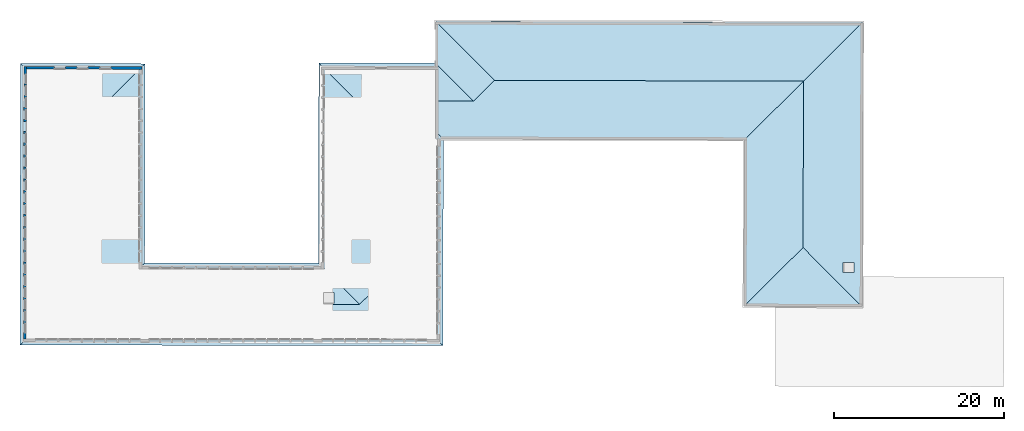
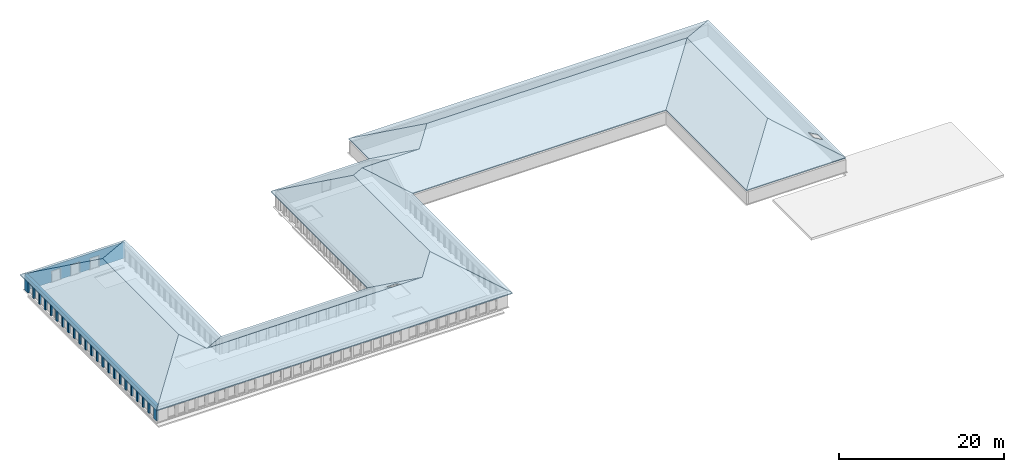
# One storey, part 26 of 26: 2 walls, 1 roof.
"""IFC2X3 building model written with IfcOpenShell, lengths in metres."""

from ifc_helpers import new_model, entity, si_unit, converted_unit, derived_unit, direction, frame, origin, place, context, subcontext, project, spatial, faceted_brep, material, layer, layer_set, type_object, element, save


model = new_model("IFC2X3")

# Units and contexts
model_context = context("Model", 3, precision=1e-05, world=origin(), true_north=direction((6.123233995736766e-17, 1.0)))
body_context = subcontext(model_context, "Body", "Model", "MODEL_VIEW")
ifc_project = project(units=[si_unit("LENGTHUNIT", "METRE"), si_unit("AREAUNIT", "SQUARE_METRE"), converted_unit("PLANEANGLEUNIT", "DEGREE", entity("IfcPlaneAngleMeasure", 0.017453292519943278), si_unit("PLANEANGLEUNIT", "RADIAN"), dimensions=[0, 0, 0, 0, 0, 0, 0]), derived_unit("THERMALTRANSMITTANCEUNIT", [(si_unit("MASSUNIT", "GRAM", prefix="KILO"), 1), (si_unit("THERMODYNAMICTEMPERATUREUNIT", "KELVIN"), -1), (si_unit("TIMEUNIT", "SECOND"), -3)])], contexts=[model_context])

# Site, building, storey
site_placement = place(None, frame((1253.6752467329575, 2072.143113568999, 91.49999999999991), z_axis=(0.0, 0.0, 1.0), x_axis=(0.7237211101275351, 0.6900925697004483, 0.0)))
site = spatial("IfcSite", under=ifc_project, at=site_placement, Name="Surface", CompositionType="ELEMENT")
building_placement = place(site_placement, origin())
building = spatial("IfcBuilding", under=site, at=building_placement, CompositionType="ELEMENT")
storey_placement = place(building_placement, frame((0.0, 0.0, 7.0)))
storey = spatial("IfcBuildingStorey", under=building, at=storey_placement, Name="2-R+2", CompositionType="ELEMENT", Elevation=6.999999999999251)

# Walls
ifc_material_1 = material(Name="OMD_Béton blanc")
ifc_layer_1 = layer(ifc_material_1, 0.29999999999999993)
ifc_layer_set_1 = layer_set([ifc_layer_1], Name="Mur de base:MUR 30")
wall_type = type_object("IfcWallType", Name="Mur de base:MUR 30", PredefinedType="STANDARD", material=ifc_layer_set_1)
wall_1_placement = place(storey_placement, frame((144.12488266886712, 4.380266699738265, 0.899999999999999), z_axis=(0.0, 0.0, 1.0), x_axis=(0.6911544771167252, 0.7227070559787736, 0.0)))
element("IfcWall", 1, at=wall_1_placement, inside=storey, type_object=wall_type, Name="Mur de base:MUR 30", ObjectType="Mur de base:MUR 30", context=body_context, shape_type="Brep", body=[
    faceted_brep([(32.1445368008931, -0.14999999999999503, 0.0), (32.1445368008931, -0.14999999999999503, 2.215594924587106), (31.84453679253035, -0.14999999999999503, 2.3899187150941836), (31.815947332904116, -0.15000000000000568, 2.4065314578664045), (7.083532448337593e-05, -0.15000000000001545, 2.4065314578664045), (7.083532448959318e-05, -0.15000000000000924, 0.0), (0.7131668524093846, -0.14999999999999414, 0.0), (0.7131668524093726, -0.15000000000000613, 1.6500000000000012), (1.8531668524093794, -0.14999999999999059, 1.6499999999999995), (1.8531668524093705, -0.1499999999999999, 0.0), (2.1131659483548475, -0.1500000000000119, 0.0), (2.1131659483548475, -0.1500000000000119, 1.6500000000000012), (3.2531659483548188, -0.15000000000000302, 1.6500000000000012), (3.253165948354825, -0.1499999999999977, 0.0), (3.5131650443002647, -0.1500000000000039, 0.0), (3.5131650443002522, -0.15000000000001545, 1.6500000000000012), (4.653165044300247, -0.1500000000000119, 1.6500000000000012), (4.653165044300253, -0.15000000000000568, 0.0), (4.913164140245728, -0.15000000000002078, 0.0), (4.913164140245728, -0.15000000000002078, 1.6500000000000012), (6.053164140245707, -0.1500000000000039, 1.6500000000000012), (6.053164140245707, -0.1500000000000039, 0.0), (6.313163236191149, -0.14999999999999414, 0.0), (6.3131632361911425, -0.15000000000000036, 1.6500000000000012), (7.453163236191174, -0.15000000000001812, 1.6500000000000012), (7.45316323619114, -0.14999999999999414, 0.0), (7.713162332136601, -0.14999999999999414, 0.0), (7.713162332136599, -0.1499999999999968, 1.6500000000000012), (8.853162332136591, -0.14999999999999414, 1.6500000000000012), (8.853162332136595, -0.14999999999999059, 0.0), (9.113161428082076, -0.14999999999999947, 0.0), (9.113161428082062, -0.1500000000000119, 1.6500000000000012), (10.253161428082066, -0.15000000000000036, 1.6500000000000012), (10.25316142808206, -0.15000000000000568, 0.0), (10.513160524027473, -0.1499999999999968, 0.0), (10.513160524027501, -0.1500000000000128, 1.6500000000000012), (11.65316052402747, -0.14999999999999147, 1.6500000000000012), (11.653160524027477, -0.14999999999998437, 0.0), (11.913159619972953, -0.1499999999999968, 0.0), (11.913159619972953, -0.1499999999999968, 1.6500000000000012), (13.053159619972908, -0.14999999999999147, 1.6499999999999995), (13.053159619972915, -0.14999999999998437, 0.0), (13.31315871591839, -0.1499999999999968, 0.0), (13.313158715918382, -0.15000000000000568, 1.6500000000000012), (14.45315871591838, -0.14999999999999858, 1.6500000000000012), (14.45315871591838, -0.14999999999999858, 0.0), (14.71315781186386, -0.15000000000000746, 0.0), (14.713157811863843, -0.14999999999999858, 1.6500000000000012), (15.853157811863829, -0.15000000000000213, 1.6500000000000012), (15.853157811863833, -0.14999999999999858, 0.0), (16.113156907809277, -0.14999999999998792, 0.0), (16.11315690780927, -0.14999999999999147, 1.6500000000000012), (17.25315690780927, -0.15000000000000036, 1.6500000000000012), (17.253156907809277, -0.14999999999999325, 0.0), (17.51315600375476, -0.14999999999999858, 0.0), (17.51315600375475, -0.15000000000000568, 1.6500000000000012), (18.653156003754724, -0.14999999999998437, 1.6500000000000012), (18.653156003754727, -0.14999999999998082, 0.0), (18.913155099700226, -0.15000000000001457, 0.0), (18.91315509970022, -0.15000000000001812, 1.6500000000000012), (20.053155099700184, -0.15000000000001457, 1.6500000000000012), (20.05315509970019, -0.1500000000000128, 0.0), (20.31315419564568, -0.14999999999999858, 0.0), (20.313154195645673, -0.1500000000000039, 1.6500000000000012), (21.453154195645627, -0.1499999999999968, 1.6500000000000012), (21.453154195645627, -0.1499999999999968, 0.0), (21.713153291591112, -0.15000000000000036, 0.0), (21.713153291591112, -0.15000000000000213, 1.6500000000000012), (22.85315329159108, -0.14999999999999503, 1.6500000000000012), (22.85315329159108, -0.14999999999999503, 0.0), (23.11315238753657, -0.1499999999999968, 0.0), (23.113152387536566, -0.15000000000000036, 1.6500000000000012), (24.25315238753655, -0.15000000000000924, 1.6500000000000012), (24.25315238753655, -0.15000000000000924, 0.0), (24.513151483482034, -0.150000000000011, 0.0), (24.513151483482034, -0.15000000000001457, 1.6500000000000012), (25.65315148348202, -0.1500000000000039, 1.6500000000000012), (25.653151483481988, -0.15000000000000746, 0.0), (25.91315057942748, -0.15000000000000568, 0.0), (25.913150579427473, -0.15000000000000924, 1.6500000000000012), (27.05315057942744, -0.15000000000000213, 1.6500000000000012), (27.05315057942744, -0.15000000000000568, 0.0), (27.313149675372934, -0.14999999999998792, 0.0), (27.313149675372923, -0.14999999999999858, 1.6500000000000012), (28.453149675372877, -0.14999999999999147, 1.6500000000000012), (28.453149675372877, -0.14999999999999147, 0.0), (28.713148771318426, -0.1500000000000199, 0.0), (28.713148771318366, -0.14999999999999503, 1.6500000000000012), (29.853148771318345, -0.1500000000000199, 1.6500000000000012), (29.853148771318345, -0.15000000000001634, 0.0), (30.113147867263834, -0.15000000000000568, 0.0), (30.11314786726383, -0.15000000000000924, 1.6500000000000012), (31.253147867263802, -0.14999999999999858, 1.6500000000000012), (31.253147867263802, -0.14999999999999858, 0.0), (31.84453679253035, -0.14999999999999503, 0.0), (32.14446596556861, 0.14999999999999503, 2.2158341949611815), (32.14446596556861, 0.14999999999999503, 0.0), (31.253147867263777, 0.15000000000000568, 0.0), (31.253147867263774, 0.15000000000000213, 1.6500000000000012), (30.11314786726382, 0.14999999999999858, 1.6500000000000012), (30.11314786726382, 0.14999999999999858, 0.0), (29.85314877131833, 0.14999999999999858, 0.0), (29.853148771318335, 0.15000000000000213, 1.6500000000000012), (28.713148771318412, 0.14999999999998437, 1.6500000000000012), (28.71314877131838, 0.14999999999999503, 0.0), (28.45314967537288, 0.14999999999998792, 0.0), (28.45314967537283, 0.15000000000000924, 1.6500000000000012), (27.31314967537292, 0.15000000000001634, 1.6500000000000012), (27.313149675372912, 0.15000000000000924, 0.0), (27.053150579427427, 0.1500000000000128, 0.0), (27.053150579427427, 0.1500000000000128, 1.6500000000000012), (25.913150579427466, 0.15000000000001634, 1.6500000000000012), (25.91315057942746, 0.15000000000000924, 0.0), (25.653151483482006, 0.14999999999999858, 0.0), (25.653151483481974, 0.14999999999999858, 1.6500000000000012), (24.51315148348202, 0.14999999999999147, 1.6499999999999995), (24.51315148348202, 0.14999999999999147, 0.0), (24.253152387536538, 0.1499999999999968, 0.0), (24.253152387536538, 0.1499999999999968, 1.6500000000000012), (23.113152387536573, 0.14999999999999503, 1.6500000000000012), (23.11315238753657, 0.14999999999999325, 0.0), (22.853153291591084, 0.14999999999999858, 0.0), (22.853153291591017, 0.15000000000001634, 1.6500000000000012), (21.713153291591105, 0.15000000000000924, 1.6499999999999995), (21.713153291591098, 0.1500000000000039, 0.0), (21.453154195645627, 0.15000000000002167, 0.0), (21.453154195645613, 0.15000000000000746, 1.6500000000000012), (20.313154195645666, 0.15000000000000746, 1.6500000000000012), (20.313154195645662, 0.15000000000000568, 0.0), (20.053155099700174, 0.15000000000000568, 0.0), (20.053155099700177, 0.15000000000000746, 1.6500000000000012), (18.913155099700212, 0.1500000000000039, 1.6499999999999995), (18.913155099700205, 0.15000000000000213, 0.0), (18.653156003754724, 0.14999999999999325, 0.0), (18.653156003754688, 0.15000000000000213, 1.6500000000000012), (17.5131560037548, 0.14999999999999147, 1.6500000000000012), (17.513156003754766, 0.14999999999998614, 0.0), (17.253156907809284, 0.14999999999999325, 0.0), (17.2531569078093, 0.15000000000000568, 1.6500000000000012), (16.11315690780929, 0.14999999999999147, 1.6500000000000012), (16.11315690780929, 0.14999999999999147, 0.0), (15.853157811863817, 0.1500000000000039, 0.0), (15.853157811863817, 0.1500000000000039, 1.6500000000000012), (14.713157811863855, 0.1500000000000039, 1.6500000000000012), (14.71315781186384, 0.1499999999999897, 0.0), (14.45315871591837, 0.15000000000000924, 0.0), (14.453158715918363, 0.1500000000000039, 1.6500000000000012), (13.313158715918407, 0.14999999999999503, 1.6499999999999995), (13.313158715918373, 0.1500000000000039, 0.0), (13.053159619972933, 0.15000000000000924, 0.0), (13.053159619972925, 0.15000000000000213, 1.6500000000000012), (11.91315961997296, 0.15000000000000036, 1.6500000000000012), (11.913159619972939, 0.15000000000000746, 0.0), (11.653160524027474, 0.14999999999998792, 0.0), (11.653160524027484, 0.14999999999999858, 1.6500000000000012), (10.513160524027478, 0.14999999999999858, 1.6500000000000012), (10.513160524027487, 0.15000000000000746, 0.0), (10.253161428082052, 0.1500000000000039, 0.0), (10.25316142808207, 0.14999999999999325, 1.6500000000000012), (9.11316142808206, 0.1500000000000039, 1.6500000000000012), (9.113161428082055, 0.1499999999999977, 0.0), (8.853162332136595, 0.1499999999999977, 0.0), (8.853162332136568, 0.15000000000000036, 1.6500000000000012), (7.713162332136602, 0.1499999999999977, 1.6500000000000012), (7.713162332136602, 0.1499999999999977, 0.0), (7.453163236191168, 0.15000000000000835, 0.0), (7.453163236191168, 0.15000000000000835, 1.6500000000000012), (6.3131632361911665, 0.14999999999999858, 1.6499999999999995), (6.313163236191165, 0.1499999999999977, 0.0), (6.053164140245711, 0.1499999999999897, 0.0), (6.053164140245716, 0.14999999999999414, 1.6500000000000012), (4.913164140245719, 0.1500000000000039, 1.6500000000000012), (4.913164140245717, 0.15000000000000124, 0.0), (4.653165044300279, 0.14999999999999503, 0.0), (4.653165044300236, 0.14999999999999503, 1.6500000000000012), (3.5131650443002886, 0.14999999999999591, 1.6500000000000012), (3.513165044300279, 0.14999999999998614, 0.0), (3.253165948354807, 0.1500000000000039, 0.0), (3.253165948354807, 0.1500000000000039, 1.6500000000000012), (2.113165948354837, 0.14999999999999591, 1.6499999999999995), (2.1131659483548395, 0.14999999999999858, 0.0), (1.8531668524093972, 0.14999999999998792, 0.0), (1.8531668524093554, 0.1500000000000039, 1.6500000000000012), (0.713166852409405, 0.1500000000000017, 1.6499999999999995), (0.7131668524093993, 0.14999999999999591, 0.0), (0.0, 0.15000000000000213, 0.0), (0.0, 0.15000000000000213, 2.2322075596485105), (32.11628846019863, 0.15000000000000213, 2.2322075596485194)], [[[0, 1, 2, 3, 4, 5, 6, 7, 8, 9, 10, 11, 12, 13, 14, 15, 16, 17, 18, 19, 20, 21, 22, 23, 24, 25, 26, 27, 28, 29, 30, 31, 32, 33, 34, 35, 36, 37, 38, 39, 40, 41, 42, 43, 44, 45, 46, 47, 48, 49, 50, 51, 52, 53, 54, 55, 56, 57, 58, 59, 60, 61, 62, 63, 64, 65, 66, 67, 68, 69, 70, 71, 72, 73, 74, 75, 76, 77, 78, 79, 80, 81, 82, 83, 84, 85, 86, 87, 88, 89, 90, 91, 92, 93, 94]], [[95, 96, 97, 98, 99, 100, 101, 102, 103, 104, 105, 106, 107, 108, 109, 110, 111, 112, 113, 114, 115, 116, 117, 118, 119, 120, 121, 122, 123, 124, 125, 126, 127, 128, 129, 130, 131, 132, 133, 134, 135, 136, 137, 138, 139, 140, 141, 142, 143, 144, 145, 146, 147, 148, 149, 150, 151, 152, 153, 154, 155, 156, 157, 158, 159, 160, 161, 162, 163, 164, 165, 166, 167, 168, 169, 170, 171, 172, 173, 174, 175, 176, 177, 178, 179, 180, 181, 182, 183, 184, 185, 186, 187]], [[5, 185, 184, 6]], [[1, 0, 96, 95]], [[5, 4, 186, 185]], [[99, 91, 90, 100]], [[91, 99, 98, 92]], [[92, 98, 97, 93]], [[103, 87, 86, 104]], [[87, 103, 102, 88]], [[88, 102, 101, 89]], [[107, 83, 82, 108]], [[83, 107, 106, 84]], [[84, 106, 105, 85]], [[111, 79, 78, 112]], [[79, 111, 110, 80]], [[80, 110, 109, 81]], [[115, 75, 74, 116]], [[75, 115, 114, 76]], [[76, 114, 113, 77]], [[119, 71, 70, 120]], [[71, 119, 118, 72]], [[72, 118, 117, 73]], [[123, 67, 66, 124]], [[67, 123, 122, 68]], [[68, 122, 121, 69]], [[127, 63, 62, 128]], [[63, 127, 126, 64]], [[64, 126, 125, 65]], [[131, 59, 58, 132]], [[59, 131, 130, 60]], [[60, 130, 129, 61]], [[135, 55, 54, 136]], [[55, 135, 134, 56]], [[56, 134, 133, 57]], [[139, 51, 50, 140]], [[51, 139, 138, 52]], [[52, 138, 137, 53]], [[143, 47, 46, 144]], [[47, 143, 142, 48]], [[48, 142, 141, 49]], [[147, 43, 42, 148]], [[43, 147, 146, 44]], [[44, 146, 145, 45]], [[151, 39, 38, 152]], [[39, 151, 150, 40]], [[40, 150, 149, 41]], [[155, 35, 34, 156]], [[35, 155, 154, 36]], [[36, 154, 153, 37]], [[159, 31, 30, 160]], [[31, 159, 158, 32]], [[32, 158, 157, 33]], [[163, 27, 26, 164]], [[27, 163, 162, 28]], [[28, 162, 161, 29]], [[167, 23, 22, 168]], [[23, 167, 166, 24]], [[24, 166, 165, 25]], [[171, 19, 18, 172]], [[19, 171, 170, 20]], [[20, 170, 169, 21]], [[175, 15, 14, 176]], [[15, 175, 174, 16]], [[16, 174, 173, 17]], [[179, 11, 10, 180]], [[11, 179, 178, 12]], [[12, 178, 177, 13]], [[183, 7, 6, 184]], [[7, 183, 182, 8]], [[8, 182, 181, 9]], [[186, 4, 3, 187]], [[1, 95, 187, 3, 2]], [[9, 181, 180, 10]], [[13, 177, 176, 14]], [[17, 173, 172, 18]], [[21, 169, 168, 22]], [[25, 165, 164, 26]], [[29, 161, 160, 30]], [[33, 157, 156, 34]], [[37, 153, 152, 38]], [[41, 149, 148, 42]], [[45, 145, 144, 46]], [[49, 141, 140, 50]], [[53, 137, 136, 54]], [[57, 133, 132, 58]], [[61, 129, 128, 62]], [[65, 125, 124, 66]], [[69, 121, 120, 70]], [[73, 117, 116, 74]], [[77, 113, 112, 78]], [[81, 109, 108, 82]], [[85, 105, 104, 86]], [[89, 101, 100, 90]], [[96, 0, 94, 93, 97]]]),
])
wall_2_placement = place(storey_placement, frame((166.34643047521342, 27.39929549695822, 0.899999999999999), z_axis=(0.0, 0.0, 1.0), x_axis=(0.7228702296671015, -0.6909838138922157, 0.0)))
element("IfcWall", 2, at=wall_2_placement, inside=storey, type_object=wall_type, Name="Mur de base:MUR 30", ObjectType="Mur de base:MUR 30", context=body_context, shape_type="Brep", body=[
    faceted_brep([(0.0, -0.150000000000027, 2.389918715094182), (0.0, -0.150000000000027, 0.0), (3.2999941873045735, -0.15000000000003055, 0.0), (3.2999941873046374, -0.1500000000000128, 1.6499999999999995), (4.599690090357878, -0.1500000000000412, 1.6499999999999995), (4.599690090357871, -0.15000000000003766, 0.0), (5.994437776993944, -0.15000000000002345, 0.0), (5.994437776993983, -0.1500000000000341, 1.6499999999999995), (7.294133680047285, -0.150000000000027, 1.6499999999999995), (7.294133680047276, -0.15000000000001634, 0.0), (8.694437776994, -0.15000000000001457, 0.0), (8.694437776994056, -0.15000000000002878, 1.6499999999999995), (9.99413368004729, -0.15000000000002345, 1.6499999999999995), (9.994133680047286, -0.15000000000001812, 0.0), (13.341040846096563, -0.15000000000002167, 0.0), (13.64104084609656, -0.15000000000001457, 0.0), (13.64104084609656, -0.15000000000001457, 2.203153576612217), (13.341040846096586, -0.15000000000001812, 2.377477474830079), (13.337937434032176, -0.15000000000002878, 2.3792808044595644), (7.083532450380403e-05, 0.14999999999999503, 0.0), (7.083532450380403e-05, 0.14999999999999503, 2.215594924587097), (13.638349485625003, 0.15000000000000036, 2.204717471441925), (13.641040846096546, 0.14999999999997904, 2.2031535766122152), (13.641040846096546, 0.14999999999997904, 0.0), (9.994133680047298, 0.14999999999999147, 0.0), (9.994133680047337, 0.14999999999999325, 1.6499999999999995), (8.694437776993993, 0.14999999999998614, 1.6499999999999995), (8.694437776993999, 0.14999999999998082, 0.0), (7.294133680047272, 0.14999999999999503, 0.0), (7.294133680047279, 0.14999999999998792, 1.6499999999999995), (5.994437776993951, 0.14999999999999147, 1.6499999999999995), (5.994437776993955, 0.14999999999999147, 0.0), (4.599690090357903, 0.14999999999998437, 0.0), (4.599690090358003, 0.14999999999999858, 1.6499999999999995), (3.299994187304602, 0.15000000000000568, 1.6499999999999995), (3.299994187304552, 0.14999999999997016, 0.0)], [[[0, 1, 2, 3, 4, 5, 6, 7, 8, 9, 10, 11, 12, 13, 14, 15, 16, 17, 18]], [[19, 20, 21, 22, 23, 24, 25, 26, 27, 28, 29, 30, 31, 32, 33, 34, 35]], [[1, 19, 35, 2]], [[1, 0, 20, 19]], [[16, 15, 23, 22]], [[8, 29, 28, 9]], [[29, 8, 7, 30]], [[30, 7, 6, 31]], [[12, 25, 24, 13]], [[25, 12, 11, 26]], [[26, 11, 10, 27]], [[4, 33, 32, 5]], [[33, 4, 3, 34]], [[34, 3, 2, 35]], [[20, 0, 18, 21]], [[16, 22, 21, 18, 17]], [[31, 6, 5, 32]], [[9, 28, 27, 10]], [[23, 15, 14, 13, 24]]]),
])

# Roof
ifc_material_2 = material(Name="Tuiles, toiture")
ifc_layer_2 = layer(ifc_material_2, 0.02)
ifc_material_3 = material(Name="OMD_Bois")
ifc_layer_3 = layer(ifc_material_3, 0.04)
ifc_layer_4 = layer(ifc_material_3, 0.06)
ifc_layer_set_2 = layer_set([ifc_layer_2, ifc_layer_3, ifc_layer_4], Name="Toit de base:Couverture tuile")
type_product = type_object("IfcTypeProduct", Name="Toit de base:Couverture tuile")
roof_placement = place(storey_placement, frame((143.24352036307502, -61.00514211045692, 2.8999999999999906)))
element("IfcRoof", 3, at=roof_placement, inside=storey, type_object=type_product, material=ifc_layer_set_2, Name="Toit de base:Couverture tuile", ObjectType="Toit de base:Couverture tuile", ShapeType="NOTDEFINED", context=body_context, shape_type="Brep", body=[
    faceted_brep([(23.183987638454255, 78.87292218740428, 4.26856669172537), (10.390953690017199, 65.49269865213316, 4.269836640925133), (0.0005458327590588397, 65.25959280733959, 0.0), (22.957978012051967, 89.26507750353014, 0.0), (33.563088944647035, 79.09987384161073, 0.0), (17.327268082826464, 62.11482828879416, 0.0), (10.470621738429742, 61.96019148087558, 2.818012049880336), (32.14666586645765, 47.94912664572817, 0.0), (32.3013026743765, 41.092480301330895, 2.818012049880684), (30.109924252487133, 43.27909849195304, 2.7794085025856), (31.013052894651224, 44.22390327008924, 2.0199266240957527), (30.217895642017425, 44.98398546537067, 2.019926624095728), (29.314766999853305, 44.0391806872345, 2.779408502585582), (48.45388387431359, 65.00886406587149, 0.0), (48.68823672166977, 54.61758261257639, 4.270711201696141), (35.83593778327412, 41.17219634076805, 4.270711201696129), (52.762231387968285, 54.70946273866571, 2.5963407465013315), (52.88052042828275, 48.366876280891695, 0.0), (36.07029063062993, 30.78091488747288, 0.0), (22.957966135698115, 89.26562359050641, 0.1385640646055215), (0.0, 65.2595805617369, 0.13856406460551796), (10.390953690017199, 65.49269865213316, 4.408625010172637), (23.183987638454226, 78.87292218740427, 4.407355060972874), (10.470621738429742, 61.96019148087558, 2.9568004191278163), (17.327813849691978, 62.11484059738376, 0.1385640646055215), (33.56363434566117, 79.09988576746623, 0.13856406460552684), (32.30130267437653, 41.09248030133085, 2.9568004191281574), (32.146653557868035, 47.94967241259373, 0.1385640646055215), (30.159356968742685, 43.243979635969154, 2.9131003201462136), (29.277455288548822, 44.086979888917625, 2.9131003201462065), (30.17959332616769, 45.03074834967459, 2.154451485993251), (31.061495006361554, 44.18774809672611, 2.1544514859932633), (35.83593778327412, 41.17219634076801, 4.40949957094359), (48.688236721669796, 54.61758261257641, 4.409499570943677), (48.453871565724, 65.00940983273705, 0.1385640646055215), (36.070302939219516, 30.78036912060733, 0.1385640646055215), (52.88079909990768, 48.36660916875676, 0.1385640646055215), (52.76250496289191, 54.709468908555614, 2.7350166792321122), (22.957966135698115, 89.26562359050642, 0.0), (0.0, 65.2595805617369, 0.0), (36.070302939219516, 30.78036912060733, 0.0), (52.88079909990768, 48.36660916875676, 0.0), (48.453871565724, 65.00940983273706, 0.0), (32.146653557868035, 47.94967241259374, 0.0), (17.327813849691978, 62.114840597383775, 0.0), (33.56363434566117, 79.0998857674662, 0.0), (58.3931031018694, 55.5086061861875, 0.0), (58.392835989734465, 55.50832751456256, 0.0), (58.551936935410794, 49.167561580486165, 2.599526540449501), (58.55221089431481, 49.167567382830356, 2.7382024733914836), (58.3931031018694, 55.5086061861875, 0.1385640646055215), (62.0407094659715, 49.241452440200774, 4.024131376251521), (88.35473467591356, 24.01895103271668, 4.024131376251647), (78.4998762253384, 23.81022892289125, 0.0), (74.77817836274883, 9.854858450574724, 4.024131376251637), (64.92331991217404, 9.646136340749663, 0.0), (61.831987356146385, 59.096310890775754, 0.0), (98.20959312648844, 24.227673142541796, 0.0), (74.98690047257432, 0.0, 0.0), (76.17876637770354, 4.509160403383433, 1.3046930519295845), (77.12385808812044, 3.6032717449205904, 0.5488640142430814), (77.88503097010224, 4.39738498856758, 0.5488640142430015), (76.93993925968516, 5.303273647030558, 1.3046930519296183), (78.4998762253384, 23.810228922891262, 0.1385640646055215), (88.35473467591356, 24.01895103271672, 4.162695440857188), (62.040709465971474, 49.241452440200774, 4.1626954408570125), (64.92331991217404, 9.64613634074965, 0.13856406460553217), (74.77817836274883, 9.854858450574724, 4.162695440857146), (98.20959312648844, 24.22767314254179, 0.1385640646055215), (61.831987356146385, 59.09631089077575, 0.13856406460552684), (74.98690047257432, 0.0, 0.1385640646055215), (76.14331016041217, 4.460034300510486, 1.4384088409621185), (76.98752008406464, 5.340778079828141, 1.4384088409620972), (77.9315751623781, 4.4358830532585, 0.6834088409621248), (77.08736523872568, 3.5551392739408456, 0.6834088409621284), (30.158370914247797, 43.32978079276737, 2.819627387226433), (30.96491816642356, 44.17354729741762, 2.1413651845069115), (30.169760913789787, 44.93362949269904, 2.1413651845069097), (29.36321366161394, 44.08986298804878, 2.8196273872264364), (30.141998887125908, 43.22582054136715, 2.869869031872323), (31.044136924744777, 44.1695890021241, 2.1112201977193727), (30.162235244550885, 45.01258925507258, 2.1112201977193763), (29.260097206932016, 44.06882079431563, 2.8698690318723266), (76.2293008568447, 4.460722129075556, 1.3451075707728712), (77.07332360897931, 3.65171001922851, 0.6701075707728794), (77.83449649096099, 4.445823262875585, 0.6701075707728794), (76.99047373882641, 5.254835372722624, 1.3451075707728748), (76.1252621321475, 4.477333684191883, 1.3951075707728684), (77.06931721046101, 3.5724386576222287, 0.6401075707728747), (77.91352713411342, 4.453182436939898, 0.64010757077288), (76.96947205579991, 5.358077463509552, 1.395107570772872)], [[[0, 1, 2, 3]], [[1, 0, 4, 5, 6]], [[6, 5, 7, 8], [9, 10, 11, 12]], [[8, 7, 13, 14, 15]], [[15, 14, 16, 17, 18]], [[2, 1, 6, 8, 15, 18]], [[19, 20, 21, 22]], [[22, 21, 23, 24, 25]], [[24, 23, 26, 27], [28, 29, 30, 31]], [[27, 26, 32, 33, 34]], [[33, 32, 35, 36, 37]], [[21, 20, 35, 32, 26, 23]], [[20, 19, 38, 39]], [[35, 20, 39, 40]], [[36, 35, 40, 41]], [[27, 34, 42, 43]], [[24, 27, 43, 44]], [[25, 24, 44, 45]], [[3, 2, 18, 17, 41, 40, 39, 38, 45, 44, 43, 42, 46, 47, 13, 7, 5, 4]], [[0, 3, 4]], [[14, 13, 47, 48, 16]], [[19, 22, 25]], [[34, 33, 37, 49, 50]], [[34, 50, 46, 42]], [[38, 19, 25, 45]], [[17, 16, 48, 51, 52, 53, 41]], [[53, 52, 54, 55]], [[52, 51, 56, 57]], [[48, 47, 46, 56, 51]], [[54, 52, 57, 58], [59, 60, 61, 62]], [[55, 54, 58]], [[37, 36, 63, 64, 65, 49]], [[64, 63, 66, 67]], [[65, 64, 68, 69]], [[50, 49, 65, 69]], [[64, 67, 70, 68], [71, 72, 73, 74]], [[67, 66, 70]], [[36, 41, 53, 63]], [[66, 63, 53, 55]], [[70, 66, 55, 58]], [[68, 70, 58, 57]], [[69, 68, 57, 56]], [[50, 69, 56, 46]], [[9, 75, 76, 10]], [[11, 77, 78, 12]], [[76, 75, 78, 77], [79, 80, 81, 82]], [[79, 82, 29, 28]], [[82, 81, 30, 29]], [[81, 80, 31, 30]], [[80, 79, 28, 31]], [[75, 9, 12, 78]], [[10, 76, 77, 11]], [[59, 83, 84, 60]], [[61, 85, 86, 62]], [[84, 83, 86, 85], [87, 88, 89, 90]], [[87, 90, 72, 71]], [[90, 89, 73, 72]], [[89, 88, 74, 73]], [[88, 87, 71, 74]], [[83, 59, 62, 86]], [[60, 84, 85, 61]]], outer=[[True], [True], [True, False], [True], [True], [True], [True], [True], [True, False], [True], [True], [True], [True], [True], [True], [True], [True], [True], [True], [True], [True], [True], [True], [True], [True], [True], [True], [True], [True], [True, False], [True], [True], [True], [True], [True], [True, False], [True], [True], [True], [True], [True], [True], [True], [True], [True], [False, True], [True], [True], [True], [True], [True], [True], [True], [True], [False, True], [True], [True], [True], [True], [True], [True]]),
])

save(model, "model.ifc")
